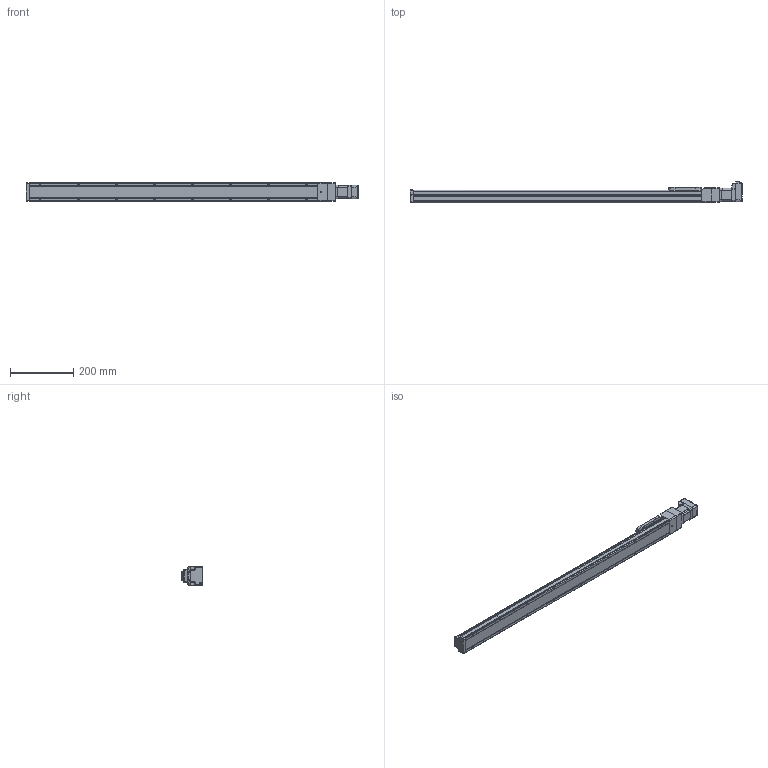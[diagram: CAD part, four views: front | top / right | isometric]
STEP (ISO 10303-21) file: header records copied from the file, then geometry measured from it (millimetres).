
FILE_DESCRIPTION (( 'STEP AP214' ), '1' );
FILE_NAME ('LEFS3(+)-25NM1Œû-800-17L.STEP', '2023-05-31T02:33:49', ( '' ), ( '' ), 'SwSTEP 2.0', 'SolidWorks 2019', '' );
FILE_SCHEMA (( 'AUTOMOTIVE_DESIGN' ));
Length unit declared in the file: millimetre
Products named in the file (5): CM3(+)-17L50A; LEFS3(+)-25NM1仩_BODY_800; LEFS3(+)-25NM1_TABLE; LEFS3(+)-25NM1口-800-17L; LEFS3(+)-25NM1_MOTOR Flange
Assembly tree (4 placements, depth 2):
  LEFS3(+)-25NM1口-800-17L
    LEFS3(+)-25NM1仩_BODY_800
    LEFS3(+)-25NM1_TABLE
    LEFS3(+)-25NM1_MOTOR Flange
    CM3(+)-17L50A
Bounding box: 1047.3 x 66.75 x 58 mm (x, y, z)
Volume: 2028628.6 mm3; surface area: 249058.3 mm2
Topology: 5 solids, 5 shells, 1015 faces, 2626 edges, 1656 vertices
Faces by surface type: plane 517, cylinder 326, cone 83, torus 39, bspline 29, sphere 21
Entity records: 41104 total; most frequent: CARTESIAN_POINT 7488, ORIENTED_EDGE 5190, DIRECTION 5014, EDGE_CURVE 2595, AXIS2_PLACEMENT_3D 1694, VERTEX_POINT 1656, LINE 1626, VECTOR 1626
